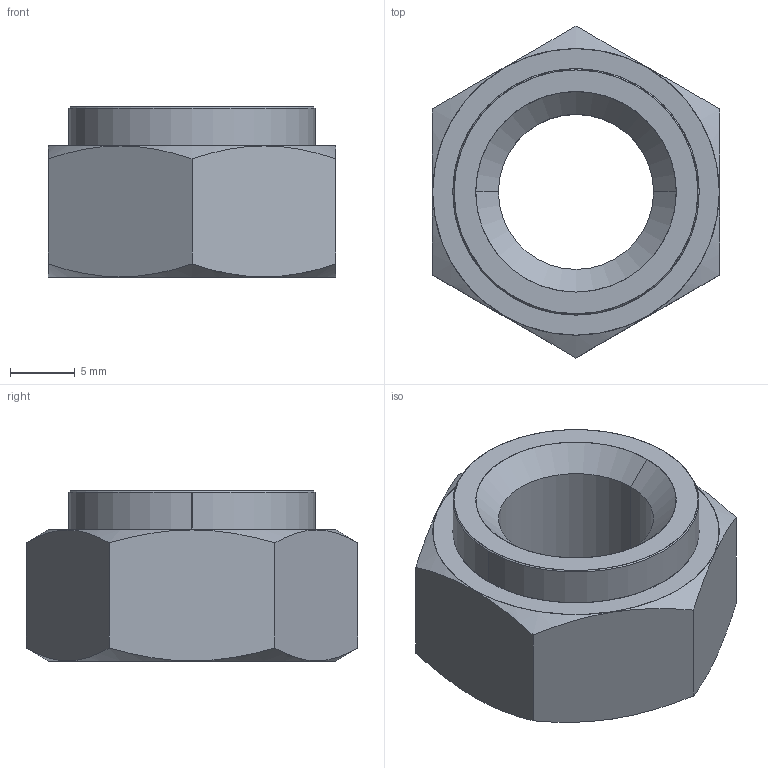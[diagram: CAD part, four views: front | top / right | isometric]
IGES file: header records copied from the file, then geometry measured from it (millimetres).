
Start section: SolidWorks IGES file using analytic representation for surfaces
Global section: file name: C:\Users\liam_\OneDrive\Desktop\Work\Mat Davis Pending 20181125\automotion\P SERIES\P0827.ZP_v2\P0827.ZP_v2_20181231_IGES\P0827.100-12G-ZP.igs; native system: SolidWorks 2017; preprocessor: SolidWorks 2017; author: liam_; date: 181231.111102; units: millimetre
Bounding box: 22.22 x 25.66 x 13.16 mm (x, y, z)
Surface area: 1971.6 mm2 (no closed solid volume)
Topology: 0 solids, 0 shells, 23 faces, 448 edges, 448 vertices
Faces by surface type: revolution 14, bspline 9
